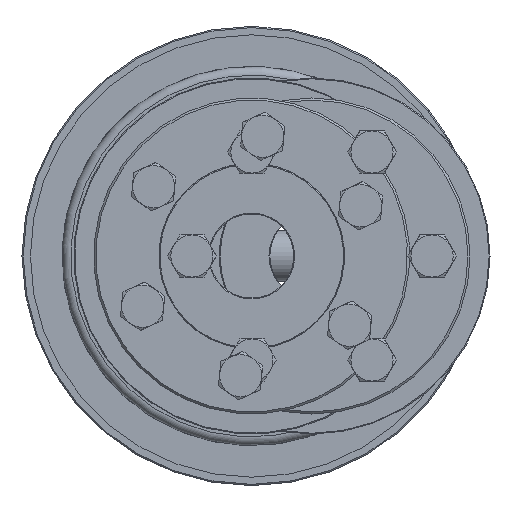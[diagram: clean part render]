
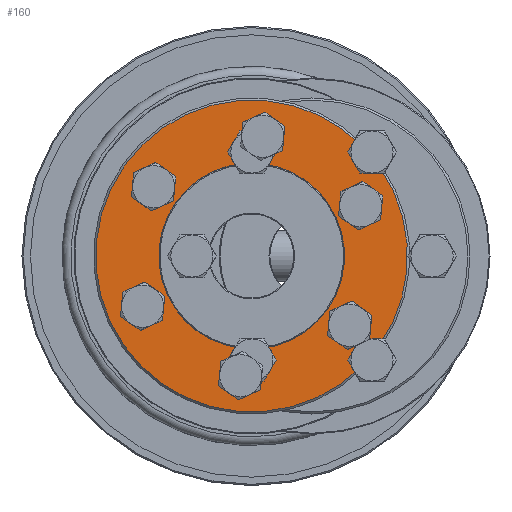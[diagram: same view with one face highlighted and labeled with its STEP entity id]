
A CAD part, left-side view. The second image highlights one B-rep face of the part: STEP entity #160.
In plain terms, the highlighted planar face has unit normal (-1, 0, 0).
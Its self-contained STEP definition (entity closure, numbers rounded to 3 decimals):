
#160 = ADVANCED_FACE( 'NONE', ( #273, #274, #275, #276, #277, #278, #279, #280 ), #281, .F. );
#273 = FACE_OUTER_BOUND( '', #407, .T. );
#274 = FACE_BOUND( '', #408, .T. );
#275 = FACE_BOUND( '', #409, .T. );
#276 = FACE_BOUND( '', #410, .T. );
#277 = FACE_BOUND( '', #411, .T. );
#278 = FACE_BOUND( '', #412, .T. );
#279 = FACE_BOUND( '', #413, .T. );
#280 = FACE_BOUND( '', #414, .T. );
#281 = PLANE( '', #415 );
#407 = EDGE_LOOP( '', ( #710 ) );
#408 = EDGE_LOOP( '', ( #711 ) );
#409 = EDGE_LOOP( '', ( #712 ) );
#410 = EDGE_LOOP( '', ( #713 ) );
#411 = EDGE_LOOP( '', ( #714 ) );
#412 = EDGE_LOOP( '', ( #715 ) );
#413 = EDGE_LOOP( '', ( #716 ) );
#414 = EDGE_LOOP( '', ( #717 ) );
#415 = AXIS2_PLACEMENT_3D( '', #718, #719, #720 );
#710 = ORIENTED_EDGE( '', *, *, #1272, .T. );
#711 = ORIENTED_EDGE( '', *, *, #1252, .T. );
#712 = ORIENTED_EDGE( '', *, *, #1255, .T. );
#713 = ORIENTED_EDGE( '', *, *, #1273, .T. );
#714 = ORIENTED_EDGE( '', *, *, #1264, .T. );
#715 = ORIENTED_EDGE( '', *, *, #1261, .T. );
#716 = ORIENTED_EDGE( '', *, *, #1249, .T. );
#717 = ORIENTED_EDGE( '', *, *, #1274, .F. );
#718 = CARTESIAN_POINT( '', ( 0., 22., 0. ) );
#719 = DIRECTION( '', ( 1., 0., 0. ) );
#720 = DIRECTION( '', ( 0., 1., 0. ) );
#1249 = EDGE_CURVE( 'NONE', #1788, #1788, #1789, .T. );
#1252 = EDGE_CURVE( 'NONE', #1793, #1793, #1794, .T. );
#1255 = EDGE_CURVE( 'NONE', #1798, #1798, #1799, .T. );
#1261 = EDGE_CURVE( 'NONE', #1808, #1808, #1809, .T. );
#1264 = EDGE_CURVE( 'NONE', #1813, #1813, #1814, .T. );
#1272 = EDGE_CURVE( 'NONE', #1826, #1826, #1827, .T. );
#1273 = EDGE_CURVE( 'NONE', #1828, #1828, #1829, .T. );
#1274 = EDGE_CURVE( 'NONE', #1830, #1830, #1831, .T. );
#1788 = VERTEX_POINT( '', #2837 );
#1789 = CIRCLE( '', #2838, 3.3 );
#1793 = VERTEX_POINT( '', #2842 );
#1794 = CIRCLE( '', #2843, 3.3 );
#1798 = VERTEX_POINT( '', #2847 );
#1799 = CIRCLE( '', #2848, 3.3 );
#1808 = VERTEX_POINT( '', #2857 );
#1809 = CIRCLE( '', #2858, 3.3 );
#1813 = VERTEX_POINT( '', #2862 );
#1814 = CIRCLE( '', #2863, 3.3 );
#1826 = VERTEX_POINT( '', #2875 );
#1827 = CIRCLE( '', #2876, 37. );
#1828 = VERTEX_POINT( '', #2877 );
#1829 = CIRCLE( '', #2878, 3.3 );
#1830 = VERTEX_POINT( '', #2879 );
#1831 = CIRCLE( '', #2880, 22. );
#2837 = CARTESIAN_POINT( '', ( 0., 28.5, -3.3 ) );
#2838 = AXIS2_PLACEMENT_3D( '', #3122, #3123, #3124 );
#2842 = CARTESIAN_POINT( '', ( 0., 14.25, 21.382 ) );
#2843 = AXIS2_PLACEMENT_3D( '', #3128, #3129, #3130 );
#2847 = CARTESIAN_POINT( '', ( 0., -14.25, 21.382 ) );
#2848 = AXIS2_PLACEMENT_3D( '', #3134, #3135, #3136 );
#2857 = CARTESIAN_POINT( '', ( 0., 14.25, -27.982 ) );
#2858 = AXIS2_PLACEMENT_3D( '', #3146, #3147, #3148 );
#2862 = CARTESIAN_POINT( '', ( 0., -14.25, -27.982 ) );
#2863 = AXIS2_PLACEMENT_3D( '', #3152, #3153, #3154 );
#2875 = CARTESIAN_POINT( '', ( 0., 0., -37. ) );
#2876 = AXIS2_PLACEMENT_3D( '', #3167, #3168, #3169 );
#2877 = CARTESIAN_POINT( '', ( 0., -28.5, -3.3 ) );
#2878 = AXIS2_PLACEMENT_3D( '', #3170, #3171, #3172 );
#2879 = CARTESIAN_POINT( '', ( 0., 0., 22. ) );
#2880 = AXIS2_PLACEMENT_3D( '', #3173, #3174, #3175 );
#3122 = CARTESIAN_POINT( '', ( 0., 28.5, 0. ) );
#3123 = DIRECTION( '', ( 1., 0., 0. ) );
#3124 = DIRECTION( '', ( 0., 0., -1. ) );
#3128 = CARTESIAN_POINT( '', ( 0., 14.25, 24.682 ) );
#3129 = DIRECTION( '', ( 1., 0., 0. ) );
#3130 = DIRECTION( '', ( 0., 0., -1. ) );
#3134 = CARTESIAN_POINT( '', ( 0., -14.25, 24.682 ) );
#3135 = DIRECTION( '', ( 1., 0., 0. ) );
#3136 = DIRECTION( '', ( 0., 0., -1. ) );
#3146 = CARTESIAN_POINT( '', ( 0., 14.25, -24.682 ) );
#3147 = DIRECTION( '', ( 1., 0., 0. ) );
#3148 = DIRECTION( '', ( 0., 0., -1. ) );
#3152 = CARTESIAN_POINT( '', ( 0., -14.25, -24.682 ) );
#3153 = DIRECTION( '', ( 1., 0., 0. ) );
#3154 = DIRECTION( '', ( 0., 0., -1. ) );
#3167 = CARTESIAN_POINT( '', ( 0., 0., 0. ) );
#3168 = DIRECTION( '', ( -1., 0., 0. ) );
#3169 = DIRECTION( '', ( 0., 0., -1. ) );
#3170 = CARTESIAN_POINT( '', ( 0., -28.5, 0. ) );
#3171 = DIRECTION( '', ( 1., 0., 0. ) );
#3172 = DIRECTION( '', ( 0., 0., -1. ) );
#3173 = CARTESIAN_POINT( '', ( 0., 0., 0. ) );
#3174 = DIRECTION( '', ( -1., 0., 0. ) );
#3175 = DIRECTION( '', ( 0., 0., 1. ) );
